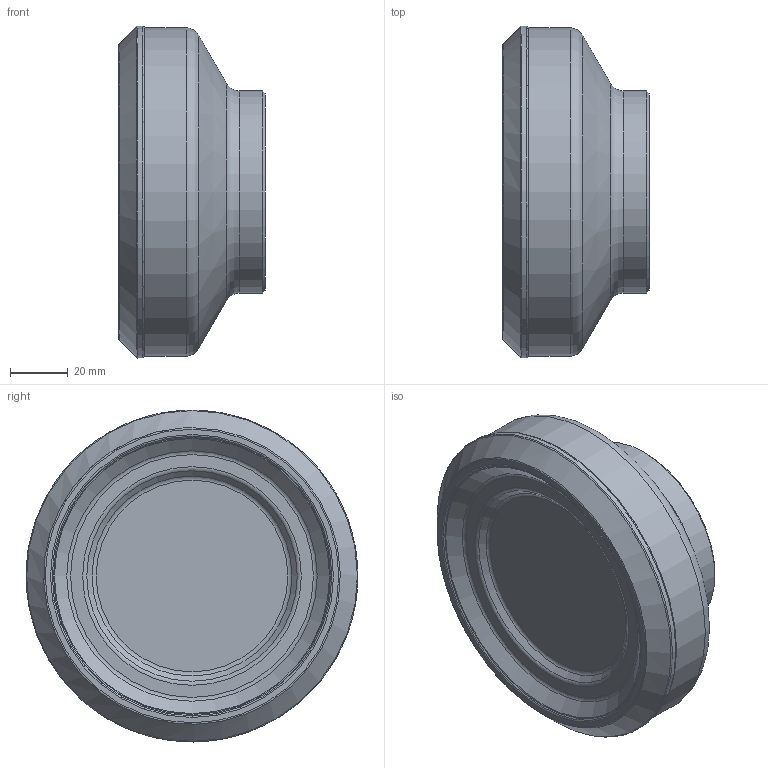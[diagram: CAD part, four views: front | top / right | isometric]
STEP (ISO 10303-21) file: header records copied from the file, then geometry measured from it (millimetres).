
FILE_DESCRIPTION(/* description */ (''),/* implementation_level */ '2;1');
FILE_NAME(/* name */ 'FMA01-4.00''''-B1.25''''-SE12-07.stp',/* time_stamp */ '2022-03-29T10:21:42+08:00',/* author */ (''),/* organization */ (''),/* preprocessor_version */ 'ST-DEVELOPER v16.7',/* originating_system */ 'SIEMENS PLM Software NX 12.0',/* authorisation */ '');
FILE_SCHEMA (('AUTOMOTIVE_DESIGN { 1 0 10303 214 3 1 1 1 }'));
Length unit declared in the file: millimetre
Products named in the file (1): heyu23945552hg3m
Bounding box: 50.8 x 114.9 x 114.9 mm (x, y, z)
Volume: 346867.6 mm3; surface area: 32481 mm2
Topology: 1 solids, 1 shells, 24 faces, 58 edges, 38 vertices
Faces by surface type: revolution 8, torus 6, cone 4, plane 4, cylinder 2
Full cylindrical faces by diameter (mm): 70 x1, 113.6 x1
Entity records: 534 total; most frequent: DIRECTION 100, CARTESIAN_POINT 79, EDGE_LOOP 46, ORIENTED_EDGE 46, FACE_BOUND 44, AXIS2_PLACEMENT_3D 44, CIRCLE 27, ADVANCED_FACE 24
